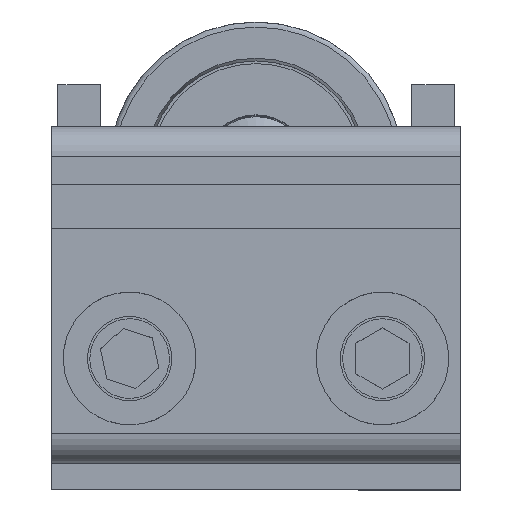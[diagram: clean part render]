
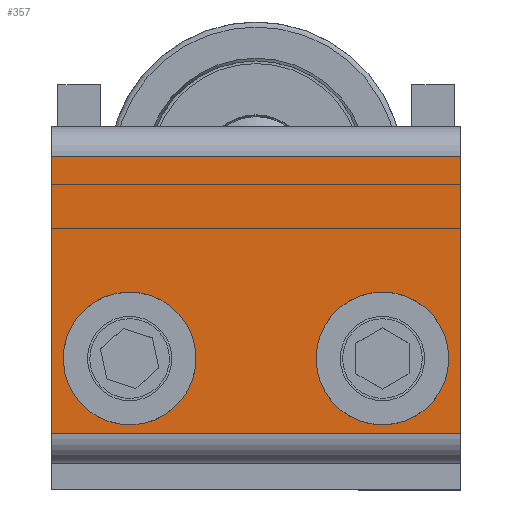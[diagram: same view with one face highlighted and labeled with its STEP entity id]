
A CAD part, top view. The second image highlights one B-rep face of the part: STEP entity #357.
In plain terms, the highlighted planar face has unit normal (0, 0, 1) as drawn and (0, 0, -1) by its records, which use the part's own axes.
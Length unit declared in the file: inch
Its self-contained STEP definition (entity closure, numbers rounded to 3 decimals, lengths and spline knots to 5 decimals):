
#63=DIRECTION('',(0.,-1.,0.));
#64=VECTOR('',#63,0.82);
#65=CARTESIAN_POINT('',(-0.6075,0.41,-0.18));
#66=LINE('',#65,#64);
#89=DIRECTION('',(0.,-1.,0.));
#90=VECTOR('',#89,0.82);
#91=CARTESIAN_POINT('',(0.6075,0.41,-0.18));
#92=LINE('',#91,#90);
#93=CARTESIAN_POINT('',(0.375,-0.188,-0.18));
#94=DIRECTION('',(0.,0.,1.));
#95=DIRECTION('',(1.,0.,0.));
#96=AXIS2_PLACEMENT_3D('',#93,#94,#95);
#98=CARTESIAN_POINT('',(0.375,-0.188,-0.18));
#99=DIRECTION('',(0.,0.,1.));
#100=DIRECTION('',(-1.,0.,0.));
#101=AXIS2_PLACEMENT_3D('',#98,#99,#100);
#103=CARTESIAN_POINT('',(-0.375,-0.188,-0.18));
#104=DIRECTION('',(0.,0.,1.));
#105=DIRECTION('',(1.,0.,0.));
#106=AXIS2_PLACEMENT_3D('',#103,#104,#105);
#108=CARTESIAN_POINT('',(-0.375,-0.188,-0.18));
#109=DIRECTION('',(0.,0.,1.));
#110=DIRECTION('',(-1.,0.,0.));
#111=AXIS2_PLACEMENT_3D('',#108,#109,#110);
#117=DIRECTION('',(-1.,0.,0.));
#118=VECTOR('',#117,1.215);
#119=CARTESIAN_POINT('',(0.6075,0.41,-0.18));
#120=LINE('',#119,#118);
#157=DIRECTION('',(1.,0.,0.));
#158=VECTOR('',#157,1.215);
#159=CARTESIAN_POINT('',(-0.6075,-0.41,-0.18));
#160=LINE('',#159,#158);
#181=CARTESIAN_POINT('',(0.25,-0.188,-0.18));
#182=CARTESIAN_POINT('',(0.5,-0.188,-0.18));
#183=VERTEX_POINT('',#181);
#184=VERTEX_POINT('',#182);
#190=CARTESIAN_POINT('',(0.6075,-0.41,-0.18));
#192=VERTEX_POINT('',#190);
#193=CARTESIAN_POINT('',(-0.6075,-0.41,-0.18));
#194=VERTEX_POINT('',#193);
#195=CARTESIAN_POINT('',(-0.5,-0.188,-0.18));
#196=CARTESIAN_POINT('',(-0.25,-0.188,-0.18));
#197=VERTEX_POINT('',#195);
#198=VERTEX_POINT('',#196);
#215=CARTESIAN_POINT('',(0.6075,0.41,-0.18));
#217=VERTEX_POINT('',#215);
#221=CARTESIAN_POINT('',(-0.6075,0.41,-0.18));
#222=VERTEX_POINT('',#221);
#332=CARTESIAN_POINT('',(0.6075,0.5,-0.18));
#333=DIRECTION('',(0.,0.,1.));
#334=DIRECTION('',(0.,-1.,0.));
#335=AXIS2_PLACEMENT_3D('',#332,#333,#334);
#336=PLANE('',#335);
#337=ORIENTED_EDGE('',*,*,#285,.F.);
#339=ORIENTED_EDGE('',*,*,#338,.T.);
#340=ORIENTED_EDGE('',*,*,#311,.T.);
#342=ORIENTED_EDGE('',*,*,#341,.T.);
#343=EDGE_LOOP('',(#337,#339,#340,#342));
#344=FACE_OUTER_BOUND('',#343,.F.);
#346=ORIENTED_EDGE('',*,*,#345,.F.);
#348=ORIENTED_EDGE('',*,*,#347,.F.);
#349=EDGE_LOOP('',(#346,#348));
#350=FACE_BOUND('',#349,.F.);
#352=ORIENTED_EDGE('',*,*,#351,.F.);
#354=ORIENTED_EDGE('',*,*,#353,.F.);
#355=EDGE_LOOP('',(#352,#354));
#356=FACE_BOUND('',#355,.F.);
#97=CIRCLE('',#96,0.125);
#102=CIRCLE('',#101,0.125);
#107=CIRCLE('',#106,0.125);
#112=CIRCLE('',#111,0.125);
#285=EDGE_CURVE('',#217,#192,#92,.T.);
#311=EDGE_CURVE('',#222,#194,#66,.T.);
#338=EDGE_CURVE('',#217,#222,#120,.T.);
#341=EDGE_CURVE('',#194,#192,#160,.T.);
#345=EDGE_CURVE('',#184,#183,#97,.T.);
#347=EDGE_CURVE('',#183,#184,#102,.T.);
#351=EDGE_CURVE('',#198,#197,#107,.T.);
#353=EDGE_CURVE('',#197,#198,#112,.T.);
#357=ADVANCED_FACE('',(#344,#350,#356),#336,.F.);
